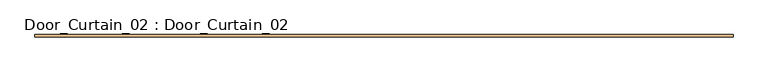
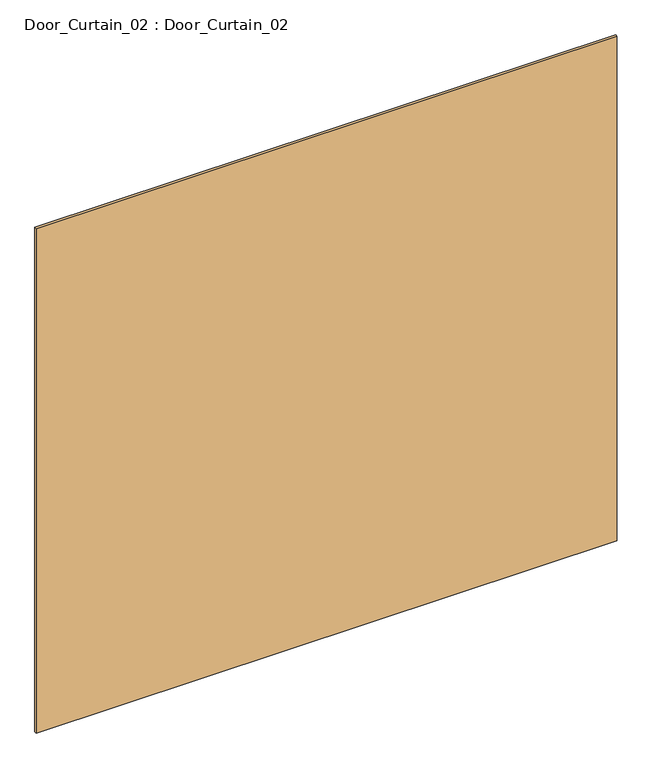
"""IFC4 building model written with IfcOpenShell, lengths in millimetres: door geometry, Door_Curtain_02 : Door_Curtain_02."""

from ifc_helpers import new_model, si_unit, origin, origin_with_axes, place, context, project, spatial, polyline, outline, extrude, source, transform, mapped, element, save


def door_curtain_02_door_curtain_02_c00c4c88(model_context):
    return source(origin(), model_context, "Body", "SweptSolid", [
        extrude(outline(polyline([(1810.0, 5.0), (1810.0, -7.7), (-1810.0, -7.7), (-1810.0, 5.0), (1810.0, 5.0)])), origin_with_axes(), (0.0, 0.0, 1.0), 3321.3320339),
    ])


if __name__ == "__main__":
    model = new_model("IFC4")
    model_context = context("Model", 3, world=origin())
    ifc_project = project(units=[si_unit("LENGTHUNIT", "METRE", prefix="MILLI")], contexts=[model_context])
    site = spatial("IfcSite", under=ifc_project)
    building = spatial("IfcBuilding", under=site)
    placement = place(None, origin())
    door_curtain_02_door_curtain_02_shape = door_curtain_02_door_curtain_02_c00c4c88(model_context)
    element("IfcDoor", 1, ObjectType="Door_Curtain_02 : Door_Curtain_02", at=placement, inside=building, context=model_context, shape_type="MappedRepresentation", body=[
        mapped(door_curtain_02_door_curtain_02_shape, transform((0.0, 0.0, 0.0), x_axis=(1.0, 0.0, 0.0), y_axis=(0.0, 1.0, 0.0), z_axis=(0.0, 0.0, 1.0))),
    ])
    save(model, "model.ifc")
